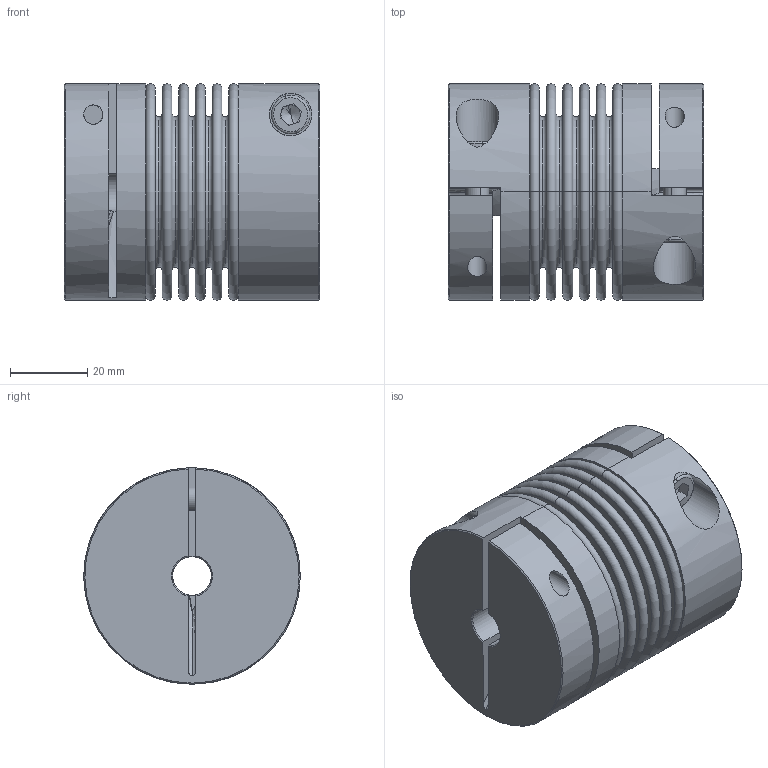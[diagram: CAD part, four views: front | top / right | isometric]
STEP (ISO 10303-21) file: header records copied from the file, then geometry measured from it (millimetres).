
FILE_DESCRIPTION (( 'STEP AP214' ), '1' );
FILE_NAME ('KB4C-30-66.STEP', '2011-01-19T17:05:36', ( '' ), ( 'KAPCAD' ), 'SwSTEP 2.0', 'SolidWorks 2002296', '' );
FILE_SCHEMA (( 'AUTOMOTIVE_DESIGN' ));
Length unit declared in the file: millimetre
Products named in the file (4): KB4C-30-66; BL30_Standard; KN30C_Standard; Socket Head Cap Screw_DIN_DIN 912 M6 x 20 --- 20N
Assembly tree (5 placements, depth 2):
  KB4C-30-66
    BL30_Standard
    KN30C_Standard  x2
    Socket Head Cap Screw_DIN_DIN 912 M6 x 20 --- 20N  x2
Bounding box: 66.05 x 56 x 56 mm (x, y, z)
Volume: 99464 mm3; surface area: 62559.7 mm2
Topology: 5 solids, 5 shells, 214 faces, 480 edges, 300 vertices
Faces by surface type: torus 80, plane 78, cylinder 40, cone 16
Entity records: 4707 total; most frequent: CARTESIAN_POINT 912, DIRECTION 910, ORIENTED_EDGE 680, AXIS2_PLACEMENT_3D 420, EDGE_CURVE 340, CIRCLE 254, VERTEX_POINT 214, EDGE_LOOP 192
